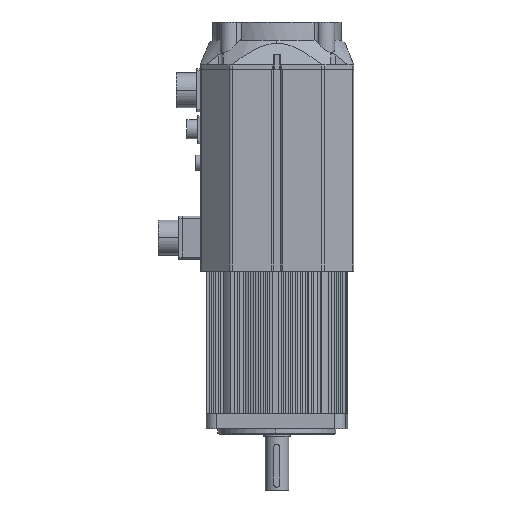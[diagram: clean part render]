
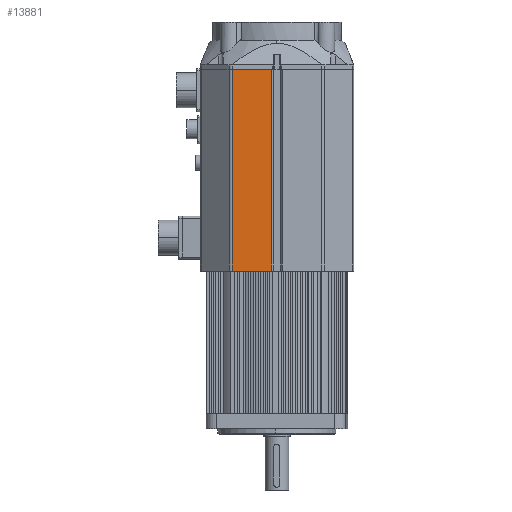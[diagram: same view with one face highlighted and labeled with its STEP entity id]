
A CAD part, left-side view. The second image highlights one B-rep face of the part: STEP entity #13881.
In plain terms, the highlighted planar face has unit normal (-1, 0, 0) as drawn and (0, 1, 0) by its records, which use the part's own axes.
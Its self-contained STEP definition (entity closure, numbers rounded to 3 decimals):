
#354 = VERTEX_POINT ( 'NONE', #33126 ) ;
#1613 = DIRECTION ( 'NONE',  ( 1., 0., 0. ) ) ;
#1862 = AXIS2_PLACEMENT_3D ( 'NONE', #28067, #28409, #23894 ) ;
#2569 = EDGE_CURVE ( 'NONE', #40398, #13797, #50589, .T. ) ;
#5668 = CARTESIAN_POINT ( 'NONE',  ( 41.447, 71.409, 188. ) ) ;
#6559 = EDGE_LOOP ( 'NONE', ( #20324, #6810, #24373, #46527 ) ) ;
#6810 = ORIENTED_EDGE ( 'NONE', *, *, #2569, .F. ) ;
#6937 = VECTOR ( 'NONE', #17225, 1000. ) ;
#8890 = LINE ( 'NONE', #5668, #20637 ) ;
#10003 = EDGE_CURVE ( 'NONE', #40398, #354, #16236, .T. ) ;
#12117 = CARTESIAN_POINT ( 'NONE',  ( 4.971, 71.409, 188. ) ) ;
#13367 = CARTESIAN_POINT ( 'NONE',  ( 0., 71.409, 0. ) ) ;
#13797 = VERTEX_POINT ( 'NONE', #31556 ) ;
#13881 = ADVANCED_FACE ( 'NONE', ( #39752 ), #44102, .T. ) ;
#16236 = LINE ( 'NONE', #31966, #6937 ) ;
#17225 = DIRECTION ( 'NONE',  ( 1., 0., 0. ) ) ;
#20324 = ORIENTED_EDGE ( 'NONE', *, *, #43157, .F. ) ;
#20637 = VECTOR ( 'NONE', #24870, 1000. ) ;
#21321 = LINE ( 'NONE', #13367, #22543 ) ;
#22543 = VECTOR ( 'NONE', #1613, 1000. ) ;
#23894 = DIRECTION ( 'NONE',  ( -1., 0., 0. ) ) ;
#24373 = ORIENTED_EDGE ( 'NONE', *, *, #10003, .T. ) ;
#24870 = DIRECTION ( 'NONE',  ( 0., 0., -1. ) ) ;
#25490 = CARTESIAN_POINT ( 'NONE',  ( 41.447, 71.409, 0. ) ) ;
#28067 = CARTESIAN_POINT ( 'NONE',  ( 0., 71.409, 188. ) ) ;
#28409 = DIRECTION ( 'NONE',  ( 0., 1., 0. ) ) ;
#31556 = CARTESIAN_POINT ( 'NONE',  ( 4.971, 71.409, 0. ) ) ;
#31966 = CARTESIAN_POINT ( 'NONE',  ( 0., 71.409, 188. ) ) ;
#33126 = CARTESIAN_POINT ( 'NONE',  ( 41.447, 71.409, 188. ) ) ;
#33854 = DIRECTION ( 'NONE',  ( 0., 0., -1. ) ) ;
#37983 = CARTESIAN_POINT ( 'NONE',  ( 4.971, 71.409, 188. ) ) ;
#39752 = FACE_OUTER_BOUND ( 'NONE', #6559, .T. ) ;
#40398 = VERTEX_POINT ( 'NONE', #12117 ) ;
#43157 = EDGE_CURVE ( 'NONE', #13797, #43250, #21321, .T. ) ;
#43250 = VERTEX_POINT ( 'NONE', #25490 ) ;
#44102 = PLANE ( 'NONE',  #1862 ) ;
#44360 = VECTOR ( 'NONE', #33854, 1000. ) ;
#46527 = ORIENTED_EDGE ( 'NONE', *, *, #48428, .T. ) ;
#48428 = EDGE_CURVE ( 'NONE', #354, #43250, #8890, .T. ) ;
#50589 = LINE ( 'NONE', #37983, #44360 ) ;
